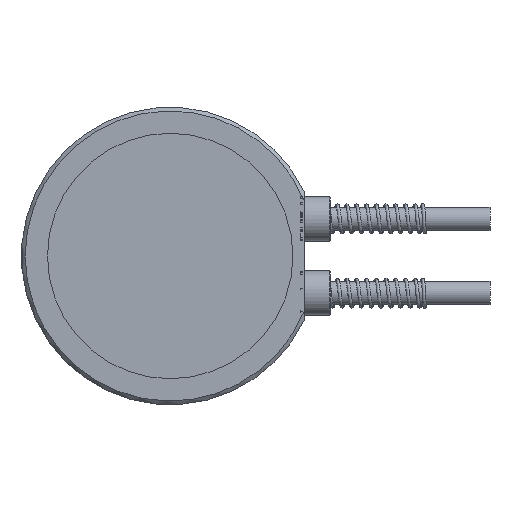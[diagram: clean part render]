
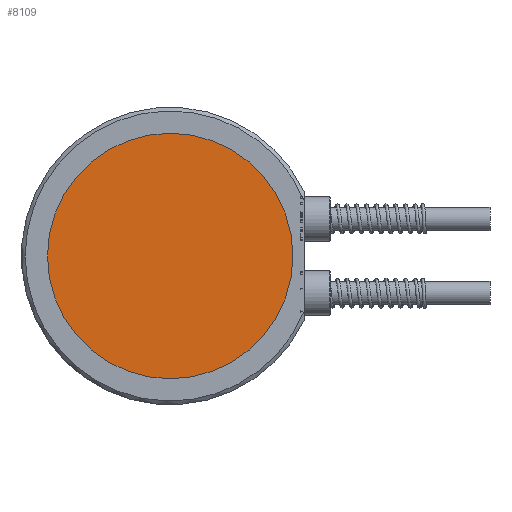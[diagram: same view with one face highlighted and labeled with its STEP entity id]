
A CAD part, left-side view. The second image highlights one B-rep face of the part: STEP entity #8109.
In plain terms, the highlighted planar face has unit normal (-1, 0, 0).
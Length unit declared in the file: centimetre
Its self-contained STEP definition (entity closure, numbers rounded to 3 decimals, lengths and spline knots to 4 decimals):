
#792=CIRCLE('',#1060,1.65);
#1060=AXIS2_PLACEMENT_3D('',#10311,#3240,#3241);
#1061=AXIS2_PLACEMENT_3D('',#10313,#3242,$);
#1337=PLANE('',#1061);
#3240=DIRECTION('',(-1.,0.,0.));
#3241=DIRECTION('',(0.,0.,-1.65));
#3242=DIRECTION('',(1.,0.,0.));
#3993=VERTEX_POINT('',#10312);
#5041=EDGE_CURVE('',#3993,#3993,#792,.T.);
#6622=ORIENTED_EDGE('',*,*,#5041,.T.);
#7352=EDGE_LOOP('',(#6622));
#7745=FACE_BOUND('',#7352,.T.);
#8109=ADVANCED_FACE('',(#7745),#1337,.F.);
#10311=CARTESIAN_POINT('',(-1.,0.,0.));
#10312=CARTESIAN_POINT('',(-1.,0.,-1.65));
#10313=CARTESIAN_POINT('',(-1.,0.,0.));
